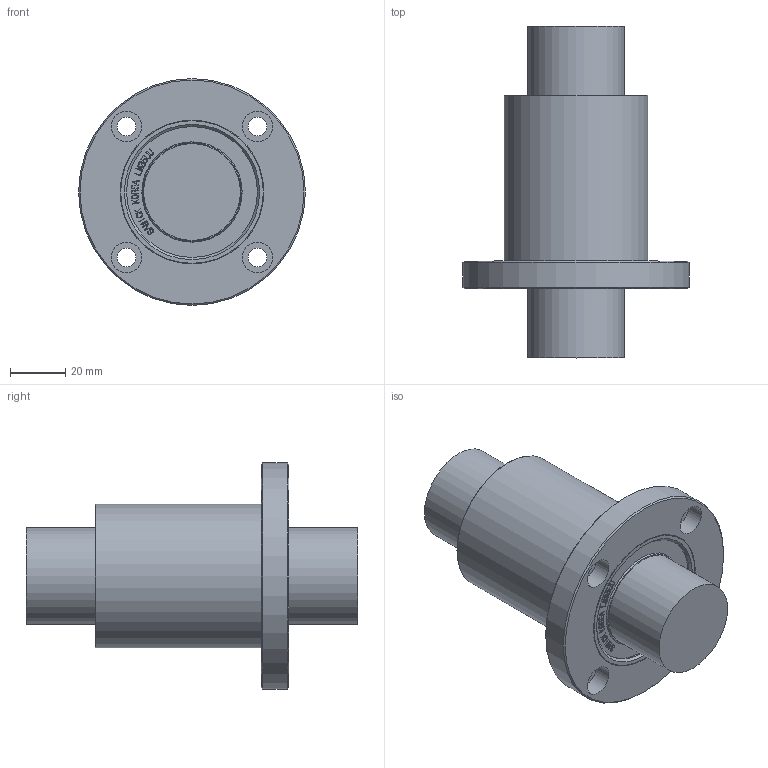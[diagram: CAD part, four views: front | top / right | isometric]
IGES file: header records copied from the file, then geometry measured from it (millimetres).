
Global section: file name: No Iges File Name specified; native system: Autodesk Inventor 2012; preprocessor: AutoDesk Inventor Iges Exporter R2012; author: user2; date: 20130206.160410; units: millimetre
Bounding box: 82 x 120 x 82 mm (x, y, z)
Volume: 223070.5 mm3; surface area: 29816.5 mm2
Topology: 1 solids, 1 shells, 887 faces, 2489 edges, 1658 vertices
Faces by surface type: bspline 636, plane 228, revolution 13, cone 4, cylinder 4, torus 2
Full cylindrical faces by diameter (mm): 35 x2, 52 x1, 82 x1
